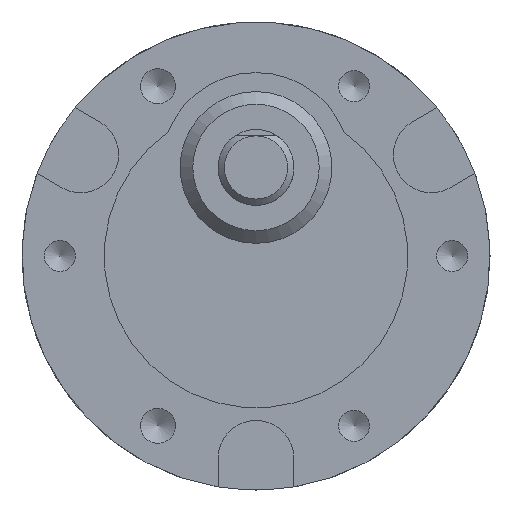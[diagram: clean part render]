
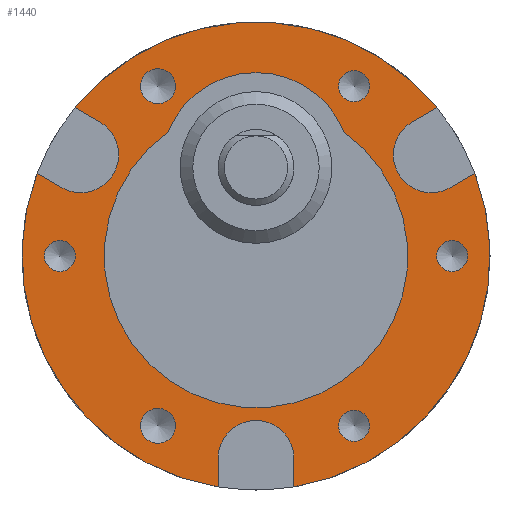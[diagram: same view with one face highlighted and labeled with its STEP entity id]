
A CAD part, front view. The second image highlights one B-rep face of the part: STEP entity #1440.
In plain terms, the highlighted planar face has unit normal (0, -1, 0).
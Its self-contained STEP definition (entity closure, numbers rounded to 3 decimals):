
#1064=CARTESIAN_POINT('',(14.309,0.45,11.726));
#1065=VERTEX_POINT('',#1064);
#1072=CARTESIAN_POINT('',(12.356,0.45,10.598));
#1073=VERTEX_POINT('',#1072);
#1074=CARTESIAN_POINT('',(12.356,0.45,10.598));
#1075=DIRECTION('',(0.866,0.0,0.5));
#1076=VECTOR('',#1075,2.255);
#1077=LINE('',#1074,#1076);
#1078=EDGE_CURVE('',#1073,#1065,#1077,.T.);
#1104=CARTESIAN_POINT('',(15.356,0.45,5.402));
#1105=VERTEX_POINT('',#1104);
#1106=CARTESIAN_POINT('',(13.856,0.45,8.));
#1107=DIRECTION('',(0.0,1.0,0.0));
#1108=DIRECTION('',(-0.5,0.0,0.866));
#1109=AXIS2_PLACEMENT_3D('',#1106,#1107,#1108);
#1110=CIRCLE('',#1109,3.);
#1111=EDGE_CURVE('',#1105,#1073,#1110,.T.);
#1136=CARTESIAN_POINT('',(17.309,0.45,6.529));
#1137=VERTEX_POINT('',#1136);
#1138=CARTESIAN_POINT('',(17.309,0.45,6.529));
#1139=DIRECTION('',(-0.866,0.0,-0.5));
#1140=VECTOR('',#1139,2.255);
#1141=LINE('',#1138,#1140);
#1142=EDGE_CURVE('',#1137,#1105,#1141,.T.);
#1186=CARTESIAN_POINT('',(-17.309,0.45,6.529));
#1187=VERTEX_POINT('',#1186);
#1194=CARTESIAN_POINT('',(-15.356,0.45,5.402));
#1195=VERTEX_POINT('',#1194);
#1196=CARTESIAN_POINT('',(-15.356,0.45,5.402));
#1197=DIRECTION('',(-0.866,0.0,0.5));
#1198=VECTOR('',#1197,2.255);
#1199=LINE('',#1196,#1198);
#1200=EDGE_CURVE('',#1195,#1187,#1199,.T.);
#1226=CARTESIAN_POINT('',(-12.356,0.45,10.598));
#1227=VERTEX_POINT('',#1226);
#1228=CARTESIAN_POINT('',(-13.856,0.45,8.));
#1229=DIRECTION('',(0.0,1.0,0.0));
#1230=DIRECTION('',(-0.5,0.0,-0.866));
#1231=AXIS2_PLACEMENT_3D('',#1228,#1229,#1230);
#1232=CIRCLE('',#1231,3.);
#1233=EDGE_CURVE('',#1227,#1195,#1232,.T.);
#1258=CARTESIAN_POINT('',(-14.309,0.45,11.726));
#1259=VERTEX_POINT('',#1258);
#1260=CARTESIAN_POINT('',(-14.309,0.45,11.726));
#1261=DIRECTION('',(0.866,0.0,-0.5));
#1262=VECTOR('',#1261,2.255);
#1263=LINE('',#1260,#1262);
#1264=EDGE_CURVE('',#1259,#1227,#1263,.T.);
#1293=CARTESIAN_POINT('',(0.0,0.45,0.0));
#1294=DIRECTION('',(0.0,-1.0,0.0));
#1295=DIRECTION('',(0.0,0.0,-1.0));
#1296=AXIS2_PLACEMENT_3D('',#1293,#1294,#1295);
#1297=PLANE('',#1296);
#1298=ORIENTED_EDGE('',*,*,#1142,.T.);
#1299=ORIENTED_EDGE('',*,*,#1111,.T.);
#1300=ORIENTED_EDGE('',*,*,#1078,.T.);
#1301=CARTESIAN_POINT('',(0.0,0.45,0.0));
#1302=DIRECTION('',(0.0,-1.0,0.0));
#1303=DIRECTION('',(1.0,0.0,0.0));
#1304=AXIS2_PLACEMENT_3D('',#1301,#1302,#1303);
#1305=CIRCLE('',#1304,18.5);
#1306=EDGE_CURVE('',#1065,#1259,#1305,.T.);
#1307=ORIENTED_EDGE('',*,*,#1306,.T.);
#1308=ORIENTED_EDGE('',*,*,#1264,.T.);
#1309=ORIENTED_EDGE('',*,*,#1233,.T.);
#1310=ORIENTED_EDGE('',*,*,#1200,.T.);
#1311=CARTESIAN_POINT('',(-3.,0.45,-18.255));
#1312=VERTEX_POINT('',#1311);
#1313=CARTESIAN_POINT('',(0.0,0.45,0.0));
#1314=DIRECTION('',(0.0,-1.0,0.0));
#1315=DIRECTION('',(1.0,0.0,0.0));
#1316=AXIS2_PLACEMENT_3D('',#1313,#1314,#1315);
#1317=CIRCLE('',#1316,18.5);
#1318=EDGE_CURVE('',#1187,#1312,#1317,.T.);
#1319=ORIENTED_EDGE('',*,*,#1318,.T.);
#1320=CARTESIAN_POINT('',(-3.,0.45,-16.0));
#1321=VERTEX_POINT('',#1320);
#1322=CARTESIAN_POINT('',(-3.,0.45,-18.255));
#1323=DIRECTION('',(0.0,0.0,1.0));
#1324=VECTOR('',#1323,2.255);
#1325=LINE('',#1322,#1324);
#1326=EDGE_CURVE('',#1312,#1321,#1325,.T.);
#1327=ORIENTED_EDGE('',*,*,#1326,.T.);
#1328=CARTESIAN_POINT('',(3.,0.45,-16.0));
#1329=VERTEX_POINT('',#1328);
#1330=CARTESIAN_POINT('',(0.0,0.45,-16.0));
#1331=DIRECTION('',(0.0,1.0,0.0));
#1332=DIRECTION('',(1.0,0.0,0.0));
#1333=AXIS2_PLACEMENT_3D('',#1330,#1331,#1332);
#1334=CIRCLE('',#1333,3.);
#1335=EDGE_CURVE('',#1321,#1329,#1334,.T.);
#1336=ORIENTED_EDGE('',*,*,#1335,.T.);
#1337=CARTESIAN_POINT('',(3.,0.45,-18.255));
#1338=VERTEX_POINT('',#1337);
#1339=CARTESIAN_POINT('',(3.,0.45,-16.0));
#1340=DIRECTION('',(0.0,0.0,-1.0));
#1341=VECTOR('',#1340,2.255);
#1342=LINE('',#1339,#1341);
#1343=EDGE_CURVE('',#1329,#1338,#1342,.T.);
#1344=ORIENTED_EDGE('',*,*,#1343,.T.);
#1345=CARTESIAN_POINT('',(0.0,0.45,0.0));
#1346=DIRECTION('',(0.0,-1.0,0.0));
#1347=DIRECTION('',(1.0,0.0,0.0));
#1348=AXIS2_PLACEMENT_3D('',#1345,#1346,#1347);
#1349=CIRCLE('',#1348,18.5);
#1350=EDGE_CURVE('',#1338,#1137,#1349,.T.);
#1351=ORIENTED_EDGE('',*,*,#1350,.T.);
#1352=EDGE_LOOP('',(#1298,#1299,#1300,#1307,#1308,#1309,#1310,#1319,#1327,#1336,#1344,#1351));
#1353=FACE_OUTER_BOUND('',#1352,.T.);
#1354=CARTESIAN_POINT('',(-6.37,0.45,13.423));
#1355=VERTEX_POINT('',#1354);
#1356=CARTESIAN_POINT('',(-7.75,0.45,13.423));
#1357=DIRECTION('',(0.0,1.0,0.0));
#1358=DIRECTION('',(1.0,0.0,0.0));
#1359=AXIS2_PLACEMENT_3D('',#1356,#1357,#1358);
#1360=CIRCLE('',#1359,1.38);
#1361=EDGE_CURVE('',#1355,#1355,#1360,.T.);
#1362=ORIENTED_EDGE('',*,*,#1361,.T.);
#1363=EDGE_LOOP('',(#1362));
#1364=FACE_BOUND('',#1363,.T.);
#1365=CARTESIAN_POINT('',(-6.37,0.45,-13.423));
#1366=VERTEX_POINT('',#1365);
#1367=CARTESIAN_POINT('',(-7.75,0.45,-13.423));
#1368=DIRECTION('',(0.0,1.0,0.0));
#1369=DIRECTION('',(1.0,0.0,0.0));
#1370=AXIS2_PLACEMENT_3D('',#1367,#1368,#1369);
#1371=CIRCLE('',#1370,1.38);
#1372=EDGE_CURVE('',#1366,#1366,#1371,.T.);
#1373=ORIENTED_EDGE('',*,*,#1372,.T.);
#1374=EDGE_LOOP('',(#1373));
#1375=FACE_BOUND('',#1374,.T.);
#1376=CARTESIAN_POINT('',(16.73,0.45,0.0));
#1377=VERTEX_POINT('',#1376);
#1378=CARTESIAN_POINT('',(15.5,0.45,0.0));
#1379=DIRECTION('',(0.0,1.0,0.0));
#1380=DIRECTION('',(1.0,0.0,0.0));
#1381=AXIS2_PLACEMENT_3D('',#1378,#1379,#1380);
#1382=CIRCLE('',#1381,1.23);
#1383=EDGE_CURVE('',#1377,#1377,#1382,.T.);
#1384=ORIENTED_EDGE('',*,*,#1383,.T.);
#1385=EDGE_LOOP('',(#1384));
#1386=FACE_BOUND('',#1385,.T.);
#1387=CARTESIAN_POINT('',(-14.27,0.45,0.0));
#1388=VERTEX_POINT('',#1387);
#1389=CARTESIAN_POINT('',(-15.5,0.45,0.0));
#1390=DIRECTION('',(0.0,1.0,0.0));
#1391=DIRECTION('',(1.0,0.0,0.0));
#1392=AXIS2_PLACEMENT_3D('',#1389,#1390,#1391);
#1393=CIRCLE('',#1392,1.23);
#1394=EDGE_CURVE('',#1388,#1388,#1393,.T.);
#1395=ORIENTED_EDGE('',*,*,#1394,.T.);
#1396=EDGE_LOOP('',(#1395));
#1397=FACE_BOUND('',#1396,.T.);
#1398=CARTESIAN_POINT('',(8.979,0.45,13.423));
#1399=VERTEX_POINT('',#1398);
#1400=CARTESIAN_POINT('',(7.75,0.45,13.423));
#1401=DIRECTION('',(0.0,1.0,0.0));
#1402=DIRECTION('',(1.0,0.0,0.0));
#1403=AXIS2_PLACEMENT_3D('',#1400,#1401,#1402);
#1404=CIRCLE('',#1403,1.23);
#1405=EDGE_CURVE('',#1399,#1399,#1404,.T.);
#1406=ORIENTED_EDGE('',*,*,#1405,.T.);
#1407=EDGE_LOOP('',(#1406));
#1408=FACE_BOUND('',#1407,.T.);
#1409=CARTESIAN_POINT('',(8.979,0.45,-13.423));
#1410=VERTEX_POINT('',#1409);
#1411=CARTESIAN_POINT('',(7.75,0.45,-13.423));
#1412=DIRECTION('',(0.0,1.0,0.0));
#1413=DIRECTION('',(1.0,0.0,0.0));
#1414=AXIS2_PLACEMENT_3D('',#1411,#1412,#1413);
#1415=CIRCLE('',#1414,1.23);
#1416=EDGE_CURVE('',#1410,#1410,#1415,.T.);
#1417=ORIENTED_EDGE('',*,*,#1416,.T.);
#1418=EDGE_LOOP('',(#1417));
#1419=FACE_BOUND('',#1418,.T.);
#1420=CARTESIAN_POINT('',(-6.971,0.45,9.768));
#1421=VERTEX_POINT('',#1420);
#1422=CARTESIAN_POINT('',(6.971,0.45,9.768));
#1423=VERTEX_POINT('',#1422);
#1424=CARTESIAN_POINT('',(0.0,0.45,7.));
#1425=DIRECTION('',(0.0,1.,0.0));
#1426=DIRECTION('',(0.929,0.0,0.369));
#1427=AXIS2_PLACEMENT_3D('',#1424,#1425,#1426);
#1428=CIRCLE('',#1427,7.5);
#1429=EDGE_CURVE('',#1421,#1423,#1428,.T.);
#1430=ORIENTED_EDGE('',*,*,#1429,.T.);
#1431=CARTESIAN_POINT('',(0.0,0.45,0.0));
#1432=DIRECTION('',(0.0,1.0,0.0));
#1433=DIRECTION('',(-0.581,0.0,0.814));
#1434=AXIS2_PLACEMENT_3D('',#1431,#1432,#1433);
#1435=CIRCLE('',#1434,12.0);
#1436=EDGE_CURVE('',#1423,#1421,#1435,.T.);
#1437=ORIENTED_EDGE('',*,*,#1436,.T.);
#1438=EDGE_LOOP('',(#1430,#1437));
#1439=FACE_BOUND('',#1438,.T.);
#1440=ADVANCED_FACE('',(#1353,#1364,#1375,#1386,#1397,#1408,#1419,#1439),#1297,.T.);
